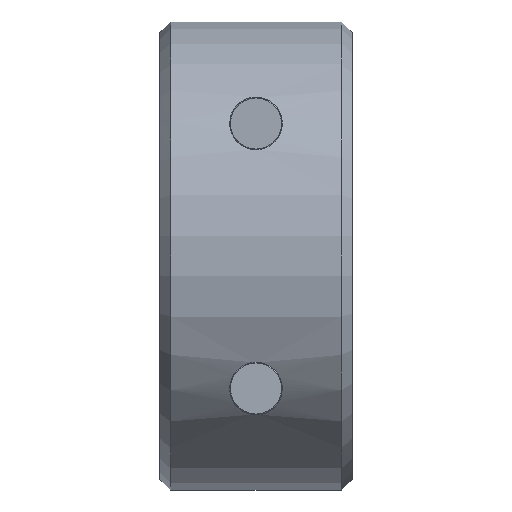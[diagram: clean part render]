
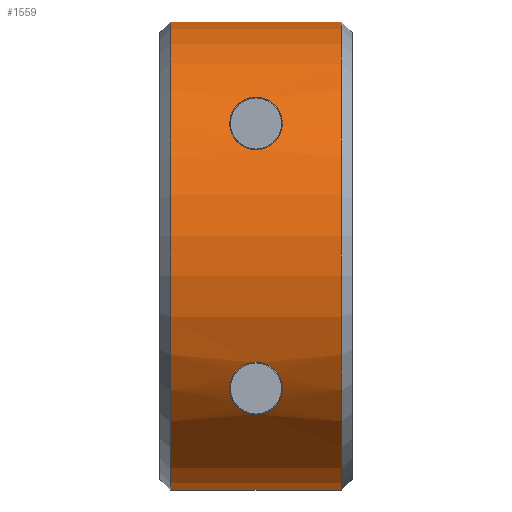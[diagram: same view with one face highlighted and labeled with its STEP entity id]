
A CAD part, front view. The second image highlights one B-rep face of the part: STEP entity #1559.
In plain terms, the highlighted cylindrical face has radius 11 mm (diameter 22 mm), a partial arc.
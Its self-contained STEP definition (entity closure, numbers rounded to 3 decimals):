
#80=LINE('',#2119,#154);
#81=LINE('',#2123,#155);
#154=VECTOR('',#1769,1000.);
#155=VECTOR('',#1772,1000.);
#228=B_SPLINE_CURVE_WITH_KNOTS('',3,(#2087,#2088,#2089,#2090,#2091,#2092,
#2093,#2094,#2095,#2096,#2097,#2098,#2099),.UNSPECIFIED.,.T.,.F.,(1,1,1,
1,1,1,1,1,1,1,1,1,1,1,1,1,1),(-0.003,-0.002,
-0.001,0.,0.001,0.002,0.003,
0.004,0.004,0.005,0.005,
0.006,0.007,0.009,0.01,
0.011,0.012),.UNSPECIFIED.);
#229=B_SPLINE_CURVE_WITH_KNOTS('',3,(#2102,#2103,#2104,#2105,#2106,#2107,
#2108,#2109,#2110,#2111,#2112,#2113,#2114),.UNSPECIFIED.,.T.,.F.,(1,1,1,
1,1,1,1,1,1,1,1,1,1,1,1,1,1),(-0.003,-0.002,
-0.001,0.,0.001,0.002,0.003,
0.004,0.004,0.005,0.005,
0.006,0.007,0.009,0.01,
0.011,0.012),.UNSPECIFIED.);
#250=ORIENTED_EDGE('',*,*,#542,.T.);
#251=ORIENTED_EDGE('',*,*,#543,.T.);
#252=ORIENTED_EDGE('',*,*,#544,.T.);
#253=ORIENTED_EDGE('',*,*,#545,.F.);
#254=ORIENTED_EDGE('',*,*,#546,.T.);
#255=ORIENTED_EDGE('',*,*,#541,.T.);
#541=EDGE_CURVE('',#687,#687,#228,.T.);
#542=EDGE_CURVE('',#688,#688,#229,.T.);
#543=EDGE_CURVE('',#689,#690,#789,.T.);
#544=EDGE_CURVE('',#690,#691,#80,.T.);
#545=EDGE_CURVE('',#692,#691,#790,.T.);
#546=EDGE_CURVE('',#692,#689,#81,.F.);
#687=VERTEX_POINT('',#2100);
#688=VERTEX_POINT('',#2115);
#689=VERTEX_POINT('',#2117);
#690=VERTEX_POINT('',#2118);
#691=VERTEX_POINT('',#2120);
#692=VERTEX_POINT('',#2122);
#789=CIRCLE('',#1638,11.);
#790=CIRCLE('',#1639,11.);
#842=EDGE_LOOP('',(#250));
#843=EDGE_LOOP('',(#251,#252,#253,#254));
#844=EDGE_LOOP('',(#255));
#940=FACE_BOUND('',#842,.T.);
#941=FACE_BOUND('',#843,.T.);
#942=FACE_BOUND('',#844,.T.);
#1039=CYLINDRICAL_SURFACE('',#1637,11.);
#1559=ADVANCED_FACE('',(#940,#941,#942),#1039,.T.);
#1637=AXIS2_PLACEMENT_3D('',#2101,#1765,#1766);
#1638=AXIS2_PLACEMENT_3D('',#2116,#1767,#1768);
#1639=AXIS2_PLACEMENT_3D('',#2121,#1770,#1771);
#1765=DIRECTION('',(1.,0.,0.));
#1766=DIRECTION('',(0.,0.,-1.));
#1767=DIRECTION('',(1.,0.,0.));
#1768=DIRECTION('',(0.,0.,-1.));
#1769=DIRECTION('',(1.,0.,0.));
#1770=DIRECTION('',(1.,0.,0.));
#1771=DIRECTION('',(0.,0.,-1.));
#1772=DIRECTION('',(1.,0.,0.));
#2087=CARTESIAN_POINT('',(-1.052,-9.643,-5.319));
#2088=CARTESIAN_POINT('',(0.,-9.898,-4.797));
#2089=CARTESIAN_POINT('',(1.051,-9.644,-5.316));
#2090=CARTESIAN_POINT('',(1.332,-9.069,-6.261));
#2091=CARTESIAN_POINT('',(1.052,-8.53,-6.956));
#2092=CARTESIAN_POINT('',(0.535,-8.189,-7.347));
#2093=CARTESIAN_POINT('',(0.003,-8.074,-7.471));
#2094=CARTESIAN_POINT('',(-0.534,-8.188,-7.347));
#2095=CARTESIAN_POINT('',(-1.05,-8.528,-6.958));
#2096=CARTESIAN_POINT('',(-1.332,-9.071,-6.258));
#2097=CARTESIAN_POINT('',(-1.052,-9.643,-5.319));
#2098=CARTESIAN_POINT('',(0.,-9.898,-4.797));
#2099=CARTESIAN_POINT('',(1.051,-9.644,-5.316));
#2100=CARTESIAN_POINT('',(0.,-9.813,-4.971));
#2101=CARTESIAN_POINT('',(4.5,0.,0.));
#2102=CARTESIAN_POINT('',(1.052,-9.643,5.319));
#2103=CARTESIAN_POINT('',(0.,-9.898,4.797));
#2104=CARTESIAN_POINT('',(-1.051,-9.644,5.316));
#2105=CARTESIAN_POINT('',(-1.332,-9.069,6.261));
#2106=CARTESIAN_POINT('',(-1.052,-8.53,6.956));
#2107=CARTESIAN_POINT('',(-0.535,-8.189,7.347));
#2108=CARTESIAN_POINT('',(-0.003,-8.074,7.471));
#2109=CARTESIAN_POINT('',(0.534,-8.188,7.347));
#2110=CARTESIAN_POINT('',(1.05,-8.528,6.958));
#2111=CARTESIAN_POINT('',(1.332,-9.071,6.258));
#2112=CARTESIAN_POINT('',(1.052,-9.643,5.319));
#2113=CARTESIAN_POINT('',(0.,-9.898,4.797));
#2114=CARTESIAN_POINT('',(-1.051,-9.644,5.316));
#2115=CARTESIAN_POINT('',(0.,-9.813,4.971));
#2116=CARTESIAN_POINT('',(-4.,0.,0.));
#2117=CARTESIAN_POINT('',(-4.,-1.05,10.95));
#2118=CARTESIAN_POINT('',(-4.,-1.05,-10.95));
#2119=CARTESIAN_POINT('',(4.5,-1.05,-10.95));
#2120=CARTESIAN_POINT('',(4.,-1.05,-10.95));
#2121=CARTESIAN_POINT('',(4.,0.,0.));
#2122=CARTESIAN_POINT('',(4.,-1.05,10.95));
#2123=CARTESIAN_POINT('',(4.5,-1.05,10.95));
